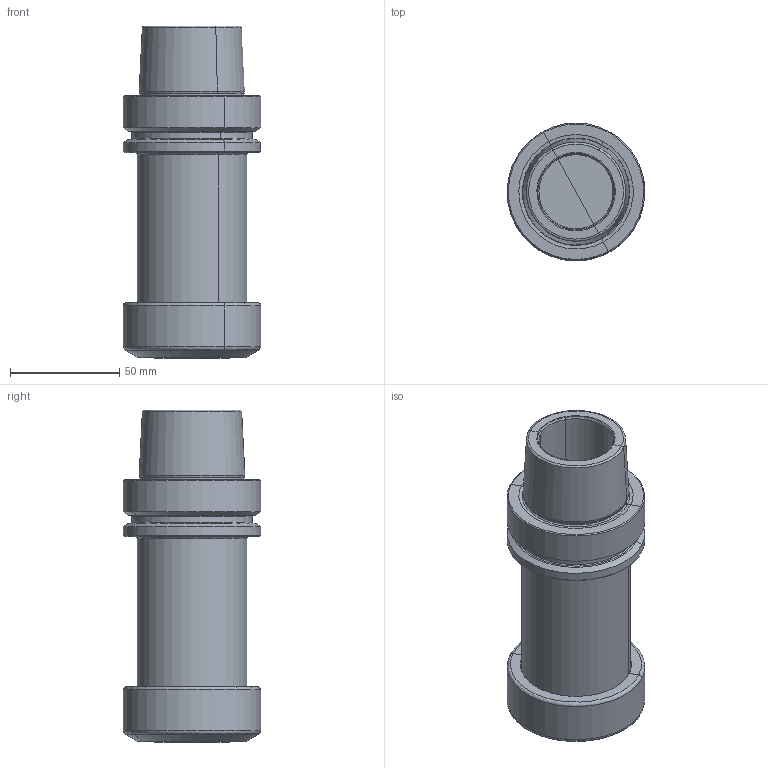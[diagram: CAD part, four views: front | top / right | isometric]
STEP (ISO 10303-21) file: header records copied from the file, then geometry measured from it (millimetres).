
FILE_DESCRIPTION(('CATIA V5 STEP','CAx-IF Rec.Pracs.--- Model Styling and Organization---1.2---2011-12-15'),'2;1');
FILE_NAME('\\nas01\drv1\utils\eitdev\rte\eit\transmagicconvert\db\out\635935388123738744\4561012 L.stp','2016-03-14T05:53:46+00:00',('none'),('none'),'CATIA Version 5 Release 21 SP 5 (IN-10)','CATIA V5 STEP AP214','none');
FILE_SCHEMA(('AUTOMOTIVE_DESIGN { 1 0 10303 214 1 1 1 1 }'));
Length unit declared in the file: millimetre
Products named in the file (1): HSK A 63 ER40X120
Bounding box: 62.98 x 62.99 x 152.03 mm (x, y, z)
Volume: 251248.3 mm3; surface area: 44572.2 mm2
Topology: 1 solids, 1 shells, 101 faces, 202 edges, 103 vertices
Faces by surface type: revolution 81, plane 20
Entity records: 3147 total; most frequent: CARTESIAN_POINT 1287, ORIENTED_EDGE 404, DIRECTION 228, EDGE_CURVE 202, B_SPLINE_CURVE_WITH_KNOTS 162, AXIS2_PLACEMENT_3D 117, CIRCLE 103, VERTEX_POINT 103
